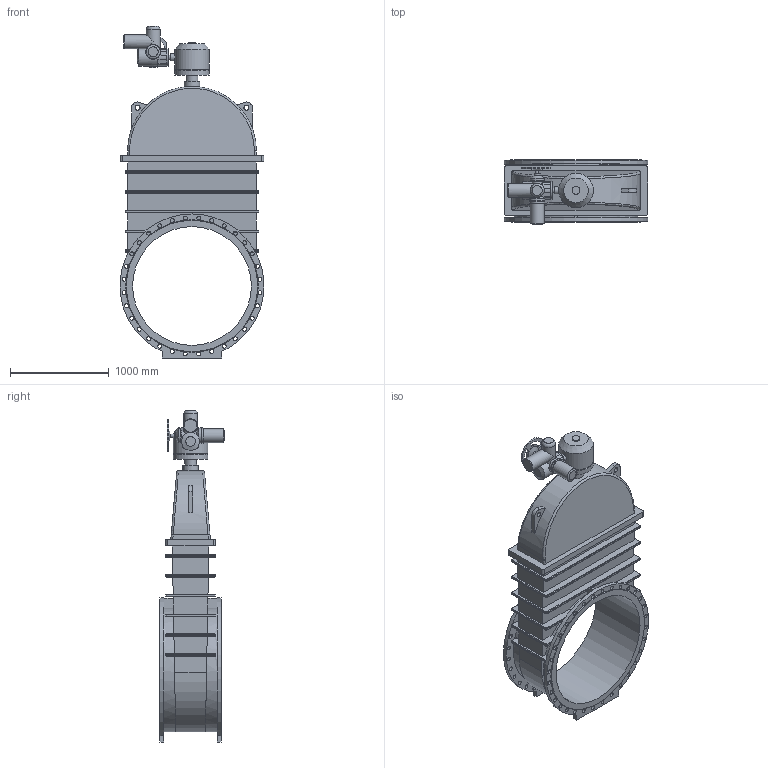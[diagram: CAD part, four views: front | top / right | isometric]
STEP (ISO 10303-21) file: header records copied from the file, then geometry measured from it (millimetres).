
FILE_DESCRIPTION(('STEP AP203'), '1');
FILE_NAME('Çàäâèæêà 47GV.Z DN1200 PN10 + ðåäóêòîð+ÌÒ903.À30', '', ('UNSPECIFIED'), ('UNSPECIFIED'), 'ASCON STEP Converter 1.6', 'ASCON Math Kernel', '');
FILE_SCHEMA(('CONFIG_CONTROL_DESIGN'));
Length unit declared in the file: millimetre
Bounding box: 1453.67 x 659 x 3354.5 mm (x, y, z)
Volume: 843030739.8 mm3; surface area: 15295978.8 mm2
Topology: 1 solids, 1 shells, 439 faces, 1095 edges, 692 vertices
Faces by surface type: cylinder 211, plane 165, bspline 50, cone 12, torus 1
Full cylindrical faces by diameter (mm): 14 x4, 18 x4, 32 x1, 40 x64, 50 x3, 60 x1, 70 x1, 80 x1, 100 x1, 120 x1, 140 x4, 147 x1, 151 x1, 160 x1, 175 x1, 330 x1, 350 x2, 1200 x1
Entity records: 22379 total; most frequent: CARTESIAN_POINT 8886, ORIENTED_EDGE 1980, DIRECTION 1931, EDGE_CURVE 990, AXIS2_PLACEMENT_3D 742, EDGE_LOOP 718, VERTEX_POINT 692, FACE_BOUND 513
